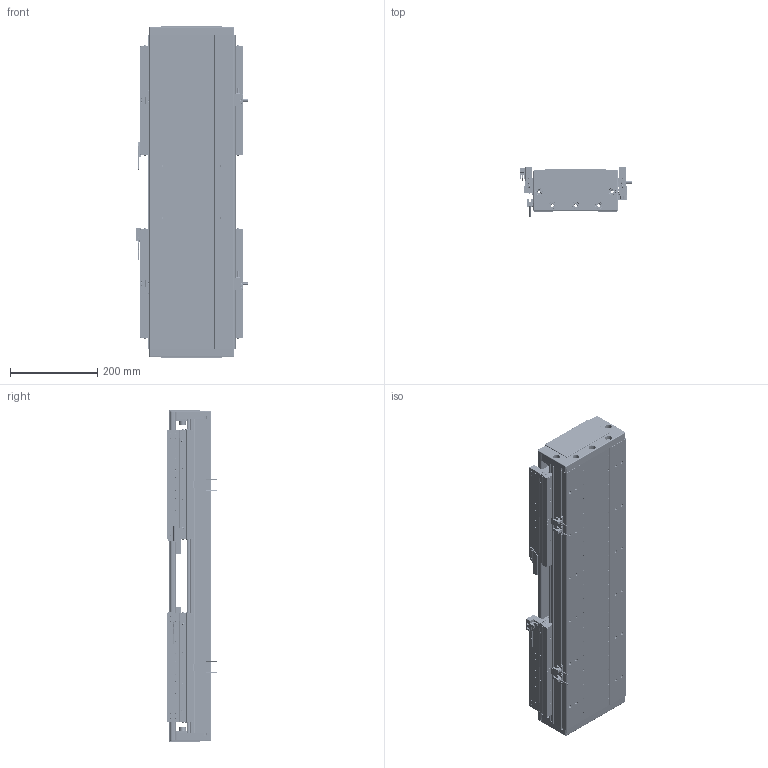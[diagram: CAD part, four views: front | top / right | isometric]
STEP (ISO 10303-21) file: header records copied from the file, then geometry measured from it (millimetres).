
FILE_DESCRIPTION (( 'STEP AP203' ), '1' );
FILE_NAME ('DA-C195-2-C3-T140-C010-0.2 眻盄萇儂.STEP', '2025-08-14T02:20:35', ( '' ), ( '' ), 'SwSTEP 2.0', 'SolidWorks 2019', '' );
FILE_SCHEMA (( 'CONFIG_CONTROL_DESIGN' ));
Length unit declared in the file: millimetre
Products named in the file (16): DKW-GYP-ZJ-00 笢潔嫖萇覜茼え; PM-T45ㄗ侂狟ㄘ; IU-CU195-L-00 菁釱(L720); DA-C195-2-C3-T140-C010-0.2 眻盄萇儂; MS200 棠掑喜S315-T240; LMT黍杅芛; 葩璃 DA95-GT-T-00; DKW168-HXJ-ZJ-00 笢潔滅袉砎蝶; 66156-0001-003-00 裔啣; IU-CU195-L 菁釱絳寢; DKW-KGZ-ZJ-00 中间光电开关支架; DA95-HXJ-00 遣喳砎蝶; PM-Y65嫖萇羲壽郪璃; CU195-C3賑輸-俋楷; DA195-DG-H-00  端盖（压铸镂空版）; DA165-GYP-00 光电感应片(默认)
Assembly tree (28 placements, depth 3):
  DA-C195-2-C3-T140-C010-0.2 眻盄萇儂
    IU-CU195-L 菁釱絳寢
      IU-CU195-L-00 菁釱(L720)
      葩璃 DA95-GT-T-00  x4
    LMT黍杅芛  x2
    MS200 棠掑喜S315-T240
    PM-T45ㄗ侂狟ㄘ  x4
    DA165-GYP-00 光电感应片(默认)  x2
    DA195-DG-H-00  端盖（压铸镂空版）  x2
    DA95-HXJ-00 遣喳砎蝶  x4
    PM-Y65嫖萇羲壽郪璃
    66156-0001-003-00 裔啣
    DKW168-HXJ-ZJ-00 笢潔滅袉砎蝶
    DKW-GYP-ZJ-00 笢潔嫖萇覜茼え
    DKW-KGZ-ZJ-00 中间光电开关支架
    CU195-C3賑輸-俋楷  x2
Bounding box: 258.2 x 115.6 x 760 mm (x, y, z)
Volume: 7835827.3 mm3; surface area: 2085546.4 mm2
Topology: 146 solids, 218 shells, 7570 faces, 18880 edges, 11447 vertices
Faces by surface type: cylinder 3008, plane 2778, cone 914, bspline 718, torus 80, sphere 72
Entity records: 144763 total; most frequent: CARTESIAN_POINT 43210, ORIENTED_EDGE 20946, DIRECTION 20312, EDGE_CURVE 10473, AXIS2_PLACEMENT_3D 7383, VERTEX_POINT 6600, LINE 5546, VECTOR 5546
